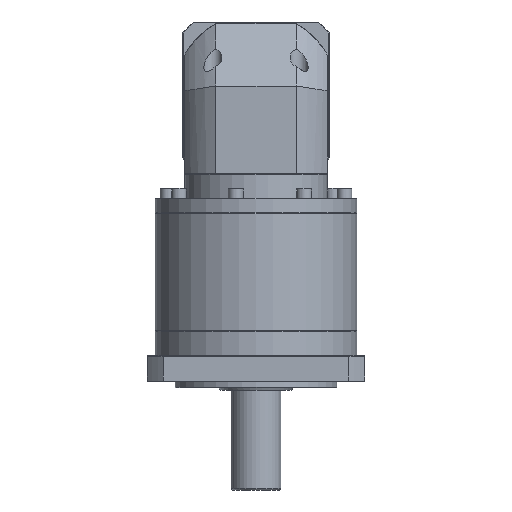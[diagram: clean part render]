
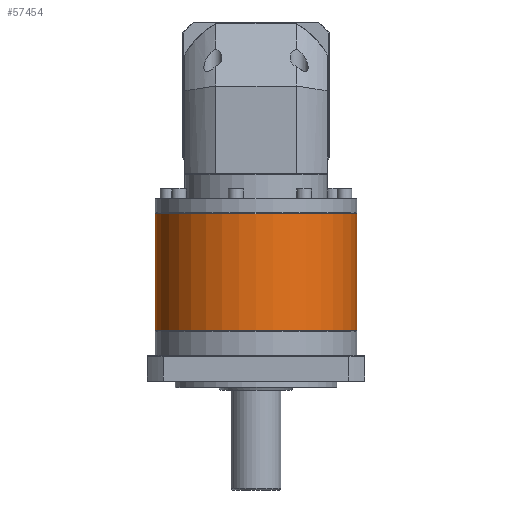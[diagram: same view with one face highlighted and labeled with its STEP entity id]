
A CAD part, front view. The second image highlights one B-rep face of the part: STEP entity #57454.
In plain terms, the highlighted cylindrical face has radius 81 mm (diameter 162 mm), a partial arc.
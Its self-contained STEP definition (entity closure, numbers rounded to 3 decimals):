
#993 = DIRECTION ( 'NONE',  ( -1., 0., 0. ) ) ;
#3017 = CARTESIAN_POINT ( 'NONE',  ( -180.992, 120.933, -200.857 ) ) ;
#3571 = EDGE_LOOP ( 'NONE', ( #127299, #78792, #59974, #78956 ) ) ;
#4480 = VERTEX_POINT ( 'NONE', #135801 ) ;
#11832 = LINE ( 'NONE', #28200, #61979 ) ;
#14647 = LINE ( 'NONE', #113183, #66589 ) ;
#18048 = DIRECTION ( 'NONE',  ( -1., 0., 0. ) ) ;
#19017 = EDGE_CURVE ( 'NONE', #98210, #4480, #104390, .T. ) ;
#22012 = CARTESIAN_POINT ( 'NONE',  ( -180.992, 120.933, -107.357 ) ) ;
#28200 = CARTESIAN_POINT ( 'NONE',  ( -18.992, 120.933, -106.857 ) ) ;
#28762 = CARTESIAN_POINT ( 'NONE',  ( -99.992, 120.933, -200.857 ) ) ;
#35458 = DIRECTION ( 'NONE',  ( -1., 0., 0. ) ) ;
#46027 = DIRECTION ( 'NONE',  ( 0., 0., -1. ) ) ;
#46893 = CARTESIAN_POINT ( 'NONE',  ( -18.992, 120.933, -107.357 ) ) ;
#48474 = CYLINDRICAL_SURFACE ( 'NONE', #66593, 81. ) ;
#54870 = VERTEX_POINT ( 'NONE', #46893 ) ;
#57454 = ADVANCED_FACE ( 'NONE', ( #58894 ), #48474, .T. ) ;
#58894 = FACE_OUTER_BOUND ( 'NONE', #3571, .T. ) ;
#59974 = ORIENTED_EDGE ( 'NONE', *, *, #81820, .T. ) ;
#61979 = VECTOR ( 'NONE', #71675, 1000. ) ;
#63568 = VERTEX_POINT ( 'NONE', #22012 ) ;
#66589 = VECTOR ( 'NONE', #80102, 1000. ) ;
#66593 = AXIS2_PLACEMENT_3D ( 'NONE', #70762, #135888, #35458 ) ;
#70762 = CARTESIAN_POINT ( 'NONE',  ( -99.992, 120.933, -106.857 ) ) ;
#71675 = DIRECTION ( 'NONE',  ( 0., 0., -1. ) ) ;
#74092 = EDGE_CURVE ( 'NONE', #54870, #4480, #11832, .T. ) ;
#78792 = ORIENTED_EDGE ( 'NONE', *, *, #122410, .T. ) ;
#78956 = ORIENTED_EDGE ( 'NONE', *, *, #19017, .T. ) ;
#80102 = DIRECTION ( 'NONE',  ( 0., 0., -1. ) ) ;
#81820 = EDGE_CURVE ( 'NONE', #63568, #98210, #14647, .T. ) ;
#97628 = AXIS2_PLACEMENT_3D ( 'NONE', #28762, #107290, #18048 ) ;
#98210 = VERTEX_POINT ( 'NONE', #3017 ) ;
#104390 = CIRCLE ( 'NONE', #97628, 81. ) ;
#106512 = AXIS2_PLACEMENT_3D ( 'NONE', #135739, #46027, #993 ) ;
#107290 = DIRECTION ( 'NONE',  ( 0., 0., 1. ) ) ;
#113183 = CARTESIAN_POINT ( 'NONE',  ( -180.992, 120.933, -106.857 ) ) ;
#122410 = EDGE_CURVE ( 'NONE', #54870, #63568, #140118, .T. ) ;
#127299 = ORIENTED_EDGE ( 'NONE', *, *, #74092, .F. ) ;
#135739 = CARTESIAN_POINT ( 'NONE',  ( -99.992, 120.933, -107.357 ) ) ;
#135801 = CARTESIAN_POINT ( 'NONE',  ( -18.992, 120.933, -200.857 ) ) ;
#135888 = DIRECTION ( 'NONE',  ( 0., 0., -1. ) ) ;
#140118 = CIRCLE ( 'NONE', #106512, 81. ) ;
